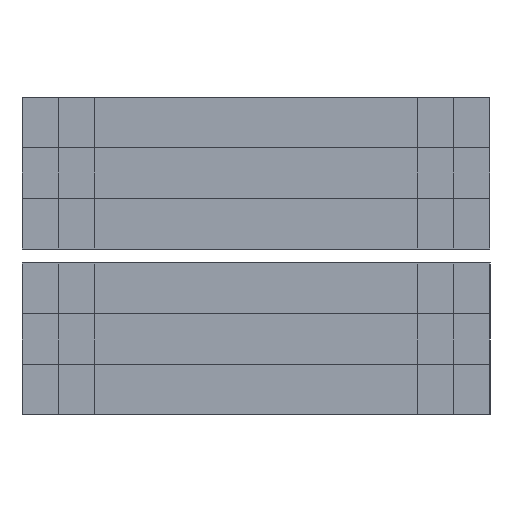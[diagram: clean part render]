
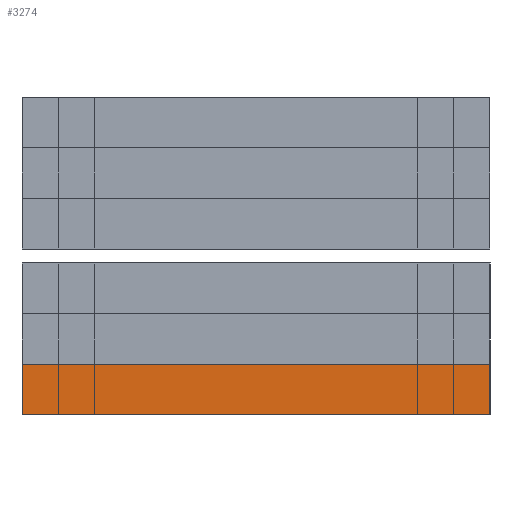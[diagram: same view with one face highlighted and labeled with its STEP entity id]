
A CAD part, left-side view. The second image highlights one B-rep face of the part: STEP entity #3274.
In plain terms, the highlighted planar face has unit normal (-1, 0, 0).
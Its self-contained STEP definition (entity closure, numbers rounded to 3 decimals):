
#3274 = ADVANCED_FACE('',(#3275),#3289,.F.);
#3275 = FACE_BOUND('',#3276,.F.);
#3276 = EDGE_LOOP('',(#3277,#3312,#3340,#3368));
#3277 = ORIENTED_EDGE('',*,*,#3278,.F.);
#3278 = EDGE_CURVE('',#3279,#3281,#3283,.T.);
#3279 = VERTEX_POINT('',#3280);
#3280 = CARTESIAN_POINT('',(-13.925,-23.599,56.75));
#3281 = VERTEX_POINT('',#3282);
#3282 = CARTESIAN_POINT('',(-13.925,-23.599,59.23));
#3283 = SURFACE_CURVE('',#3284,(#3288,#3300),.PCURVE_S1.);
#3284 = LINE('',#3285,#3286);
#3285 = CARTESIAN_POINT('',(-13.925,-23.599,56.75));
#3286 = VECTOR('',#3287,1.);
#3287 = DIRECTION('',(0.,0.,1.));
#3288 = PCURVE('',#3289,#3294);
#3289 = PLANE('',#3290);
#3290 = AXIS2_PLACEMENT_3D('',#3291,#3292,#3293);
#3291 = CARTESIAN_POINT('',(-13.925,-23.599,56.75));
#3292 = DIRECTION('',(1.,0.,0.));
#3293 = DIRECTION('',(0.,0.,1.));
#3294 = DEFINITIONAL_REPRESENTATION('',(#3295),#3299);
#3295 = LINE('',#3296,#3297);
#3296 = CARTESIAN_POINT('',(0.,0.));
#3297 = VECTOR('',#3298,1.);
#3298 = DIRECTION('',(1.,0.));
#3299 = ( GEOMETRIC_REPRESENTATION_CONTEXT(2) 
PARAMETRIC_REPRESENTATION_CONTEXT() REPRESENTATION_CONTEXT('2D SPACE',''
  ) );
#3300 = PCURVE('',#3301,#3306);
#3301 = PLANE('',#3302);
#3302 = AXIS2_PLACEMENT_3D('',#3303,#3304,#3305);
#3303 = CARTESIAN_POINT('',(-13.925,-23.599,56.75));
#3304 = DIRECTION('',(0.,1.,0.));
#3305 = DIRECTION('',(0.,0.,1.));
#3306 = DEFINITIONAL_REPRESENTATION('',(#3307),#3311);
#3307 = LINE('',#3308,#3309);
#3308 = CARTESIAN_POINT('',(0.,0.));
#3309 = VECTOR('',#3310,1.);
#3310 = DIRECTION('',(1.,0.));
#3311 = ( GEOMETRIC_REPRESENTATION_CONTEXT(2) 
PARAMETRIC_REPRESENTATION_CONTEXT() REPRESENTATION_CONTEXT('2D SPACE',''
  ) );
#3312 = ORIENTED_EDGE('',*,*,#3313,.T.);
#3313 = EDGE_CURVE('',#3279,#3314,#3316,.T.);
#3314 = VERTEX_POINT('',#3315);
#3315 = CARTESIAN_POINT('',(-13.925,-0.691,56.75));
#3316 = SURFACE_CURVE('',#3317,(#3321,#3328),.PCURVE_S1.);
#3317 = LINE('',#3318,#3319);
#3318 = CARTESIAN_POINT('',(-13.925,-23.599,56.75));
#3319 = VECTOR('',#3320,1.);
#3320 = DIRECTION('',(0.,1.,0.));
#3321 = PCURVE('',#3289,#3322);
#3322 = DEFINITIONAL_REPRESENTATION('',(#3323),#3327);
#3323 = LINE('',#3324,#3325);
#3324 = CARTESIAN_POINT('',(0.,0.));
#3325 = VECTOR('',#3326,1.);
#3326 = DIRECTION('',(0.,-1.));
#3327 = ( GEOMETRIC_REPRESENTATION_CONTEXT(2) 
PARAMETRIC_REPRESENTATION_CONTEXT() REPRESENTATION_CONTEXT('2D SPACE',''
  ) );
#3328 = PCURVE('',#3329,#3334);
#3329 = PLANE('',#3330);
#3330 = AXIS2_PLACEMENT_3D('',#3331,#3332,#3333);
#3331 = CARTESIAN_POINT('',(-13.925,-23.599,56.75));
#3332 = DIRECTION('',(0.,0.,1.));
#3333 = DIRECTION('',(1.,0.,0.));
#3334 = DEFINITIONAL_REPRESENTATION('',(#3335),#3339);
#3335 = LINE('',#3336,#3337);
#3336 = CARTESIAN_POINT('',(0.,0.));
#3337 = VECTOR('',#3338,1.);
#3338 = DIRECTION('',(0.,1.));
#3339 = ( GEOMETRIC_REPRESENTATION_CONTEXT(2) 
PARAMETRIC_REPRESENTATION_CONTEXT() REPRESENTATION_CONTEXT('2D SPACE',''
  ) );
#3340 = ORIENTED_EDGE('',*,*,#3341,.T.);
#3341 = EDGE_CURVE('',#3314,#3342,#3344,.T.);
#3342 = VERTEX_POINT('',#3343);
#3343 = CARTESIAN_POINT('',(-13.925,-0.691,59.23));
#3344 = SURFACE_CURVE('',#3345,(#3349,#3356),.PCURVE_S1.);
#3345 = LINE('',#3346,#3347);
#3346 = CARTESIAN_POINT('',(-13.925,-0.691,56.75));
#3347 = VECTOR('',#3348,1.);
#3348 = DIRECTION('',(0.,0.,1.));
#3349 = PCURVE('',#3289,#3350);
#3350 = DEFINITIONAL_REPRESENTATION('',(#3351),#3355);
#3351 = LINE('',#3352,#3353);
#3352 = CARTESIAN_POINT('',(0.,-22.909));
#3353 = VECTOR('',#3354,1.);
#3354 = DIRECTION('',(1.,0.));
#3355 = ( GEOMETRIC_REPRESENTATION_CONTEXT(2) 
PARAMETRIC_REPRESENTATION_CONTEXT() REPRESENTATION_CONTEXT('2D SPACE',''
  ) );
#3356 = PCURVE('',#3357,#3362);
#3357 = PLANE('',#3358);
#3358 = AXIS2_PLACEMENT_3D('',#3359,#3360,#3361);
#3359 = CARTESIAN_POINT('',(-13.925,-0.691,56.75));
#3360 = DIRECTION('',(0.,1.,0.));
#3361 = DIRECTION('',(0.,0.,1.));
#3362 = DEFINITIONAL_REPRESENTATION('',(#3363),#3367);
#3363 = LINE('',#3364,#3365);
#3364 = CARTESIAN_POINT('',(0.,0.));
#3365 = VECTOR('',#3366,1.);
#3366 = DIRECTION('',(1.,0.));
#3367 = ( GEOMETRIC_REPRESENTATION_CONTEXT(2) 
PARAMETRIC_REPRESENTATION_CONTEXT() REPRESENTATION_CONTEXT('2D SPACE',''
  ) );
#3368 = ORIENTED_EDGE('',*,*,#3369,.F.);
#3369 = EDGE_CURVE('',#3281,#3342,#3370,.T.);
#3370 = SURFACE_CURVE('',#3371,(#3375,#3382),.PCURVE_S1.);
#3371 = LINE('',#3372,#3373);
#3372 = CARTESIAN_POINT('',(-13.925,-23.599,59.23));
#3373 = VECTOR('',#3374,1.);
#3374 = DIRECTION('',(0.,1.,0.));
#3375 = PCURVE('',#3289,#3376);
#3376 = DEFINITIONAL_REPRESENTATION('',(#3377),#3381);
#3377 = LINE('',#3378,#3379);
#3378 = CARTESIAN_POINT('',(2.48,0.));
#3379 = VECTOR('',#3380,1.);
#3380 = DIRECTION('',(0.,-1.));
#3381 = ( GEOMETRIC_REPRESENTATION_CONTEXT(2) 
PARAMETRIC_REPRESENTATION_CONTEXT() REPRESENTATION_CONTEXT('2D SPACE',''
  ) );
#3382 = PCURVE('',#3383,#3388);
#3383 = PLANE('',#3384);
#3384 = AXIS2_PLACEMENT_3D('',#3385,#3386,#3387);
#3385 = CARTESIAN_POINT('',(-13.925,-23.599,59.23));
#3386 = DIRECTION('',(0.,0.,1.));
#3387 = DIRECTION('',(1.,0.,0.));
#3388 = DEFINITIONAL_REPRESENTATION('',(#3389),#3393);
#3389 = LINE('',#3390,#3391);
#3390 = CARTESIAN_POINT('',(0.,0.));
#3391 = VECTOR('',#3392,1.);
#3392 = DIRECTION('',(0.,1.));
#3393 = ( GEOMETRIC_REPRESENTATION_CONTEXT(2) 
PARAMETRIC_REPRESENTATION_CONTEXT() REPRESENTATION_CONTEXT('2D SPACE',''
  ) );
